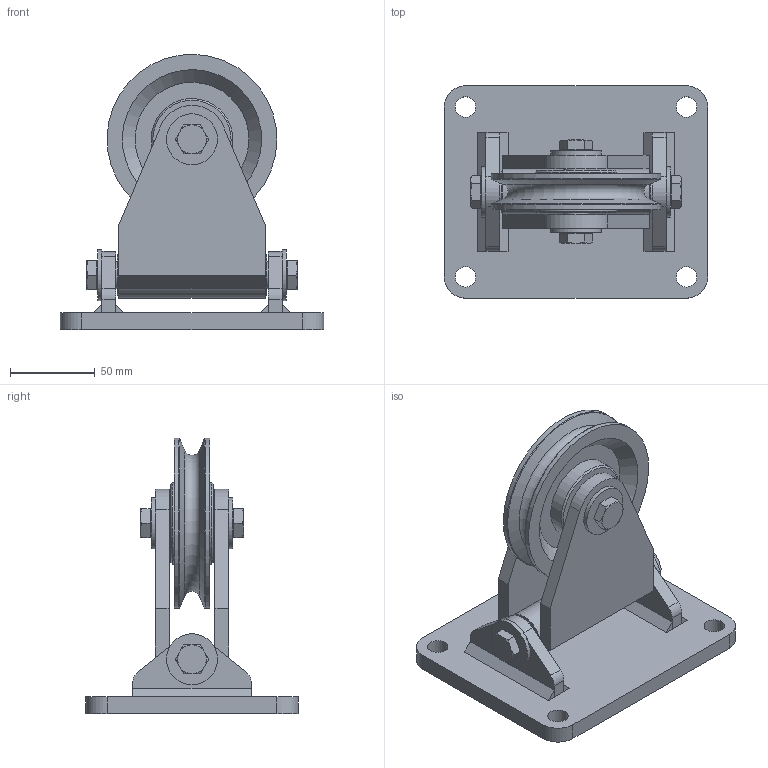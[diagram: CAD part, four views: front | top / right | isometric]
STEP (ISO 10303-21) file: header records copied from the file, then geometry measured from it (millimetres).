
FILE_DESCRIPTION(/* description */ ('Seilrolle ø100 einfach Schwenkbar SE 100 K'),/* implementation_level */ '2;1');
FILE_NAME(/* name */ 'Z:\Workspace\03 Seilrollen\1.409 K Seilrollen einfach schwenkbar Kugellager\1.409.01 K Seilrolle ø100 einfach schwenkbar SE 100 K\1.409.01 K Seilrolle ø100 einfach Schwenkbar SE 100 K.stp',/* time_stamp */ '2021-10-11T10:57:46+02:00',/* author */ ('cad-user'),/* organization */ (''),/* preprocessor_version */ 'ST-DEVELOPER v18',/* originating_system */ 'Autodesk Inventor 2020',/* authorisation */ '');
FILE_SCHEMA (('AUTOMOTIVE_DESIGN { 1 0 10303 214 3 1 1 }'));
Length unit declared in the file: millimetre
Products named in the file (29): 1.409.01 K Seilrolle ø100 einfach schwenkbar SE 100
 K; 1.409.01.01 Konsole Schweißteil; 1.409.01.01 Konsole Schweißteil_1; 1.409.01.02 Platte 1; 1.409.01.03 Platte 2; 1.409.01.06  Schwenkkonsole Schweißteil; 1.409.01.06  Schwenkkonsole Schweißteil_1; 1.409.01.05 Rohr; 1.409.01.04 Platte 3; 1.409.01.08 Achse 2; 1.402.03 Seilrolle ø100 Kugellager komplett; 1.402.03 Seilrolle ø100 Kugellager; DIN625 - 6202-2RS; din625_-_6202-2rs_0_05; din625_-_6202-2rs_0_04; din625_-_6202-2rs_0_03; din625_-_6202-2rs_0_02; din625_-_6202-2rs_0_01; 62202-2RS1; ball_bearing_62202-2rs1_0_05; ball_bearing_62202-2rs1_0_04; ball_bearing_62202-2rs1_0_03; ball_bearing_62202-2rs1_0_02; ball_bearing_62202-2rs1_0_01; DIN 9021 - 10,5; PCMF 161817 E; DIN 933 - M10  x 20; DIN 933 - M10  x 25; 1.405.03.02 K Achse
Assembly tree (36 placements, depth 4):
  1.409.01 K Seilrolle ø100 einfach schwenkbar SE 100
 K
    1.409.01.01 Konsole Schweißteil
      1.409.01.01 Konsole Schweißteil_1
      1.409.01.02 Platte 1
      1.409.01.03 Platte 2  x2
    1.409.01.06  Schwenkkonsole Schweißteil
      1.409.01.06  Schwenkkonsole Schweißteil_1
      1.409.01.05 Rohr
      1.409.01.04 Platte 3  x2
    1.409.01.08 Achse 2
    1.402.03 Seilrolle ø100 Kugellager komplett
      1.402.03 Seilrolle ø100 Kugellager
      DIN625 - 6202-2RS
        din625_-_6202-2rs_0_05
        din625_-_6202-2rs_0_04
        din625_-_6202-2rs_0_03
        din625_-_6202-2rs_0_02
        din625_-_6202-2rs_0_01
      62202-2RS1
        ball_bearing_62202-2rs1_0_05
        ball_bearing_62202-2rs1_0_04
        ball_bearing_62202-2rs1_0_03
        ball_bearing_62202-2rs1_0_02
        ball_bearing_62202-2rs1_0_01
    DIN 9021 - 10,5  x4
    PCMF 161817 E  x2
    DIN 933 - M10  x 20  x2
    DIN 933 - M10  x 25  x2
    1.405.03.02 K Achse
Bounding box: 155 x 125 x 161.97 mm (x, y, z)
Volume: 487752.7 mm3; surface area: 181337.7 mm2
Topology: 35 solids, 35 shells, 344 faces, 834 edges, 580 vertices
Faces by surface type: plane 164, cylinder 92, cone 46, torus 35, sphere 7
Full cylindrical faces by diameter (mm): 8.376 x3, 9.188 x4, 10 x4, 10.5 x4, 11 x2, 12 x4, 15 x3, 15.4 x4, 16 x3, 17 x1, 18 x2, 19.1 x4, 20.473 x2, 21 x2, 22.35 x2, 27 x1, 27.425 x2, 29 x2, 29.955 x2, 30 x4, 30.05 x2, 30.4 x4, 31.9 x4, 35 x3, 48 x2, 100 x2
Entity records: 9544 total; most frequent: CARTESIAN_POINT 1923, DIRECTION 1572, ORIENTED_EDGE 1248, AXIS2_PLACEMENT_3D 679, EDGE_CURVE 624, VERTEX_POINT 454, CIRCLE 358, EDGE_LOOP 328
